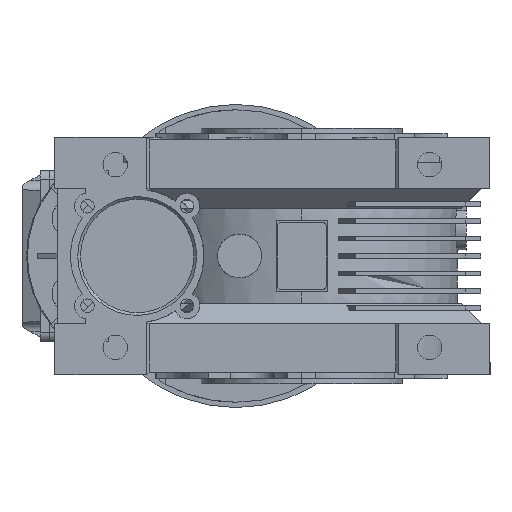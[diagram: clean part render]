
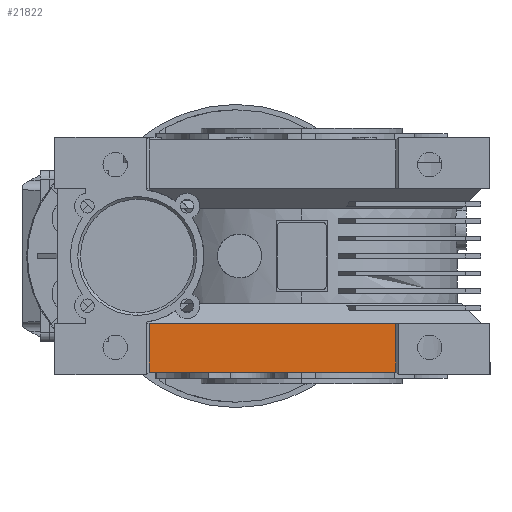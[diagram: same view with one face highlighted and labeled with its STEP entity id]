
A CAD part, left-side view. The second image highlights one B-rep face of the part: STEP entity #21822.
In plain terms, the highlighted planar face has unit normal (-1, 0, 0).
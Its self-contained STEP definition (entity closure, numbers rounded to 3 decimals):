
#601 = CARTESIAN_POINT ( 'NONE',  ( -101.5, 83.5, -65. ) ) ;
#604 = DIRECTION ( 'NONE',  ( 0., 0., 1. ) ) ;
#633 = CARTESIAN_POINT ( 'NONE',  ( -101.5, -51.5, -37. ) ) ;
#636 = DIRECTION ( 'NONE',  ( 0., 1., 0. ) ) ;
#703 = DIRECTION ( 'NONE',  ( 0., 0., 1. ) ) ;
#709 = CARTESIAN_POINT ( 'NONE',  ( -101.5, -51.5, -65. ) ) ;
#17670 = FACE_OUTER_BOUND ( 'NONE', #63733, .T. ) ;
#21822 = ADVANCED_FACE ( 'NONE', ( #17670 ), #125093, .T. ) ;
#28300 = LINE ( 'NONE', #39569, #28306 ) ;
#28306 = VECTOR ( 'NONE', #39565, 1000. ) ;
#30864 = LINE ( 'NONE', #601, #30872 ) ;
#30872 = VECTOR ( 'NONE', #604, 1000. ) ;
#30906 = LINE ( 'NONE', #633, #30915 ) ;
#30915 = VECTOR ( 'NONE', #636, 1000. ) ;
#30963 = LINE ( 'NONE', #709, #30986 ) ;
#30986 = VECTOR ( 'NONE', #703, 1000. ) ;
#39565 = DIRECTION ( 'NONE',  ( 0., -1., 0. ) ) ;
#39569 = CARTESIAN_POINT ( 'NONE',  ( -101.5, -51.5, -63.5 ) ) ;
#48912 = AXIS2_PLACEMENT_3D ( 'NONE', #125112, #125113, #125115 ) ;
#53674 = EDGE_CURVE ( 'NONE', #82023, #82009, #28300, .T. ) ;
#54347 = EDGE_CURVE ( 'NONE', #82023, #81976, #30864, .T. ) ;
#54354 = EDGE_CURVE ( 'NONE', #82033, #81976, #30906, .T. ) ;
#63733 = EDGE_LOOP ( 'NONE', ( #88602, #88604, #88605, #88607 ) ) ;
#68686 = EDGE_CURVE ( 'NONE', #82009, #82033, #30963, .T. ) ;
#81976 = VERTEX_POINT ( 'NONE', #98292 ) ;
#82009 = VERTEX_POINT ( 'NONE', #98333 ) ;
#82023 = VERTEX_POINT ( 'NONE', #98343 ) ;
#82033 = VERTEX_POINT ( 'NONE', #98350 ) ;
#88602 = ORIENTED_EDGE ( 'NONE', *, *, #54354, .T. ) ;
#88604 = ORIENTED_EDGE ( 'NONE', *, *, #54347, .F. ) ;
#88605 = ORIENTED_EDGE ( 'NONE', *, *, #53674, .T. ) ;
#88607 = ORIENTED_EDGE ( 'NONE', *, *, #68686, .T. ) ;
#98292 = CARTESIAN_POINT ( 'NONE',  ( -101.5, 83.5, -37. ) ) ;
#98333 = CARTESIAN_POINT ( 'NONE',  ( -101.5, -51.5, -63.5 ) ) ;
#98343 = CARTESIAN_POINT ( 'NONE',  ( -101.5, 83.5, -63.5 ) ) ;
#98350 = CARTESIAN_POINT ( 'NONE',  ( -101.5, -51.5, -37. ) ) ;
#125093 = PLANE ( 'NONE',  #48912 ) ;
#125112 = CARTESIAN_POINT ( 'NONE',  ( -101.5, -51.5, -65. ) ) ;
#125113 = DIRECTION ( 'NONE',  ( -1., 0., 0. ) ) ;
#125115 = DIRECTION ( 'NONE',  ( 0., 0., 1. ) ) ;
